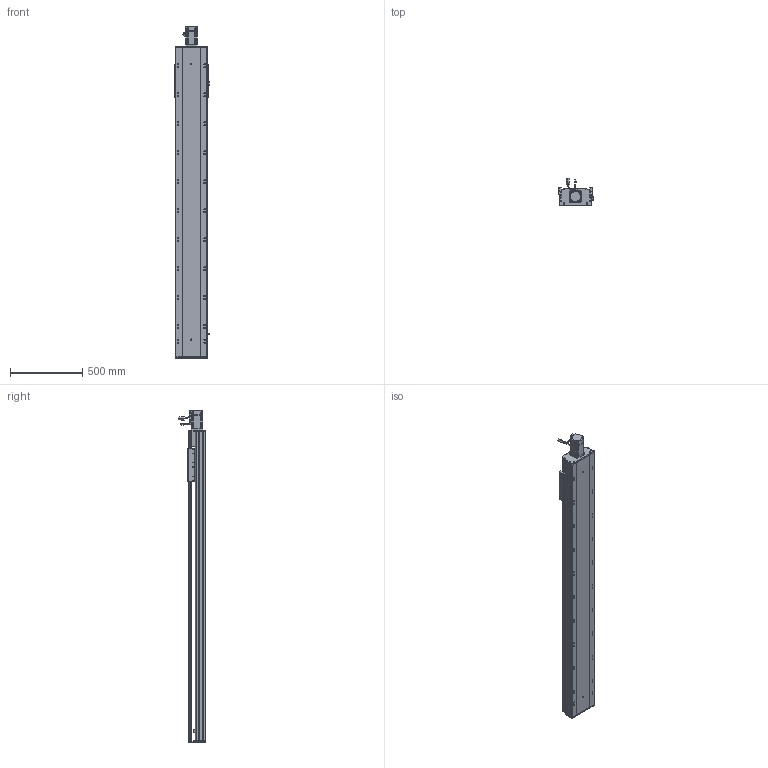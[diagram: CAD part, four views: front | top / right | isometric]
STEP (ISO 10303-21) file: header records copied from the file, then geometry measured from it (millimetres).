
FILE_DESCRIPTION (( 'STEP AP203' ), '1' );
FILE_NAME ('RY220-L2525-800-MK-邧嶺.SLDASM_1700.step', '2022-08-06T08:58:14', ( '' ), ( '' ), 'SwSTEP 2.0', 'SolidWorks 2016', '' );
FILE_SCHEMA (( 'CONFIG_CONTROL_DESIGN' ));
Length unit declared in the file: millimetre
Products named in the file (12): RY220ヶ裔啣; RY220-800-奻裔啣-MK_1700; 怢湛750W_ECMA-CX0807ES; RY220菁釱MK-800-邧嶺_1700; RY220半封闭25-32螺母铝滑块; RY220綴裔啣; RY220-俋离672覜茼んえ; RY220-L2525-800-MK-邧嶺.SLDASM_1700; 滅袉蝶18-15; 滅袉蝶18-12; 覜茼ん672; RY220电机支撑座FK20（PCD90M6）
Assembly tree (15 placements, depth 2):
  RY220-L2525-800-MK-邧嶺.SLDASM_1700
    RY220菁釱MK-800-邧嶺_1700
    RY220电机支撑座FK20（PCD90M6）
    怢湛750W_ECMA-CX0807ES
    滅袉蝶18-12  x2
    RY220ヶ裔啣
    RY220綴裔啣
    覜茼ん672  x3
    RY220半封闭25-32螺母铝滑块
    RY220-800-奻裔啣-MK_1700
    RY220-俋离672覜茼んえ
    滅袉蝶18-15  x2
Bounding box: 238.7 x 187.27 x 2290.3 mm (x, y, z)
Volume: 17077860.8 mm3; surface area: 4972414.6 mm2
Topology: 16 solids, 16 shells, 2378 faces, 6602 edges, 4144 vertices
Faces by surface type: cylinder 1104, plane 915, cone 297, bspline 36, sphere 16, torus 10
Entity records: 78392 total; most frequent: CARTESIAN_POINT 22159, ORIENTED_EDGE 11648, DIRECTION 11127, EDGE_CURVE 5824, AXIS2_PLACEMENT_3D 3955, VERTEX_POINT 3800, VECTOR 3217, LINE 3217
